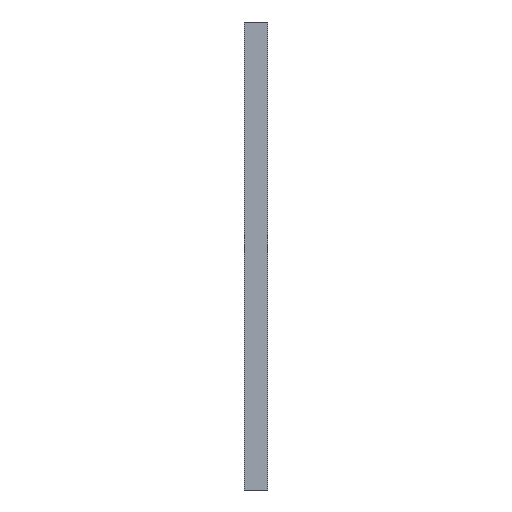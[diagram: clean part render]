
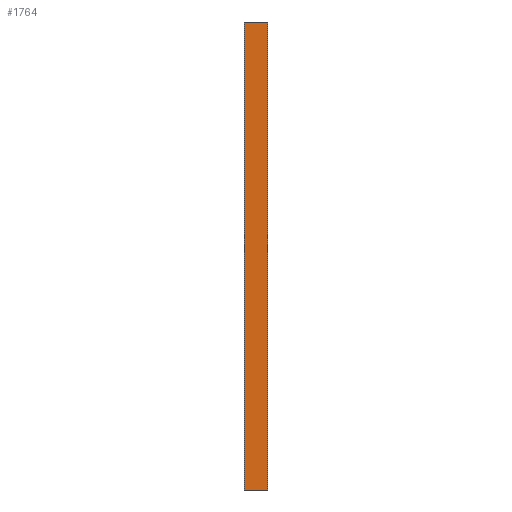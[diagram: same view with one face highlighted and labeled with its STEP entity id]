
A CAD part, front view. The second image highlights one B-rep face of the part: STEP entity #1764.
In plain terms, the highlighted planar face has unit normal (0, -1, 0).
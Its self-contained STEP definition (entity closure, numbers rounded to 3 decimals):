
#136=ORIENTED_EDGE('',*,*,#675,.F.);
#137=ORIENTED_EDGE('',*,*,#674,.F.);
#138=ORIENTED_EDGE('',*,*,#676,.T.);
#139=ORIENTED_EDGE('',*,*,#677,.T.);
#674=EDGE_CURVE('',#943,#942,#1122,.T.);
#675=EDGE_CURVE('',#942,#944,#1123,.T.);
#676=EDGE_CURVE('',#943,#945,#1124,.T.);
#677=EDGE_CURVE('',#945,#944,#1125,.T.);
#942=VERTEX_POINT('',#2571);
#943=VERTEX_POINT('',#2573);
#944=VERTEX_POINT('',#2577);
#945=VERTEX_POINT('',#2579);
#1122=LINE('',#2574,#1320);
#1123=LINE('',#2576,#1321);
#1124=LINE('',#2578,#1322);
#1125=LINE('',#2580,#1323);
#1320=VECTOR('',#2045,1000.);
#1321=VECTOR('',#2048,1000.);
#1322=VECTOR('',#2049,1000.);
#1323=VECTOR('',#2050,1000.);
#1516=EDGE_LOOP('',(#136,#137,#138,#139));
#1612=FACE_BOUND('',#1516,.T.);
#1707=PLANE('',#1871);
#1764=ADVANCED_FACE('',(#1612),#1707,.T.);
#1871=AXIS2_PLACEMENT_3D('',#2575,#2046,#2047);
#2045=DIRECTION('',(0.,0.,1.));
#2046=DIRECTION('',(0.,-1.,0.));
#2047=DIRECTION('',(0.,0.,-1.));
#2048=DIRECTION('',(1.,0.,0.));
#2049=DIRECTION('',(1.,0.,0.));
#2050=DIRECTION('',(0.,0.,1.));
#2571=CARTESIAN_POINT('',(-59.757,0.,0.));
#2573=CARTESIAN_POINT('',(-59.757,0.,-2400.));
#2574=CARTESIAN_POINT('',(-59.757,0.,-2400.));
#2575=CARTESIAN_POINT('',(-59.757,0.,-2400.));
#2576=CARTESIAN_POINT('',(-59.757,0.,0.));
#2577=CARTESIAN_POINT('',(59.757,0.,0.));
#2578=CARTESIAN_POINT('',(-59.757,0.,-2400.));
#2579=CARTESIAN_POINT('',(59.757,0.,-2400.));
#2580=CARTESIAN_POINT('',(59.757,0.,-2400.));
